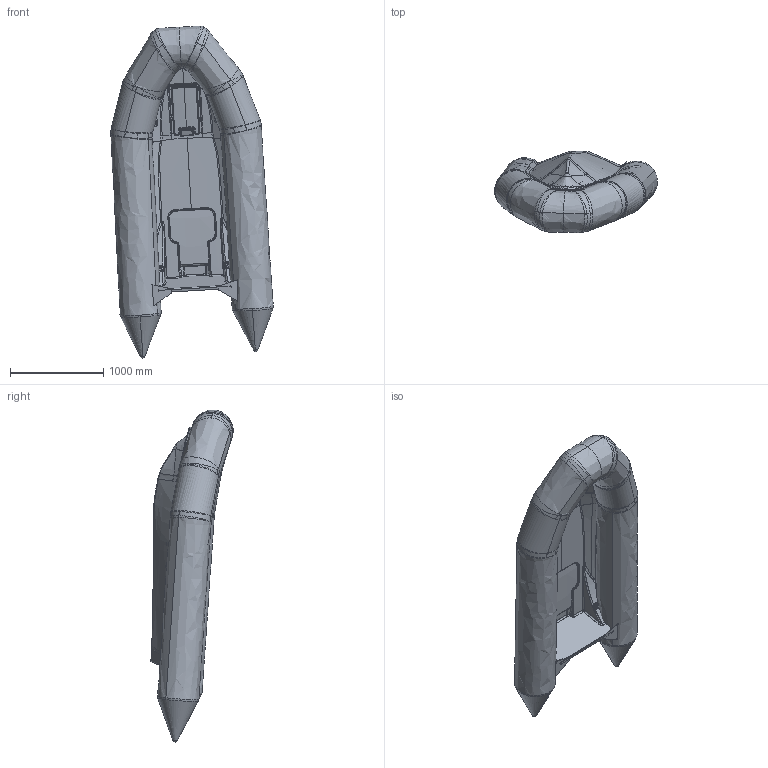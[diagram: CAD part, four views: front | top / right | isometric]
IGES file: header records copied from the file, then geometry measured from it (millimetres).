
Start section: START RECORD GO HERE.
Global section: file name: 2019-02-27_reconstruction_RIBO340.igs; native system: DASSAULT SYSTEMES CATIA Version 5-6 Release 2015 - www.3ds.com; preprocessor: V5-6R2015_5.25.6.0.03-24-2017.22.00; author: cao2; organization: DOMCREASTYL; date: 20190227.135839; units: millimetre
Bounding box: 1744.83 x 882.72 x 3558.77 mm (x, y, z)
Volume: 18871744 mm3; surface area: 21561451.6 mm2
Topology: 4 solids, 6 shells, 1293 faces, 3155 edges, 1803 vertices
Faces by surface type: bspline 1145, revolution 76, plane 52, extrusion 20
